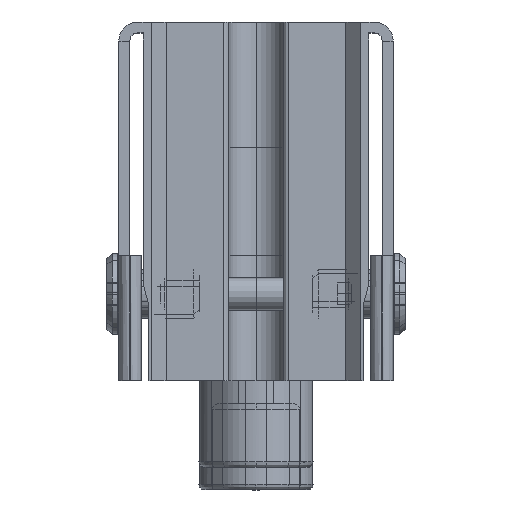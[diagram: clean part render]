
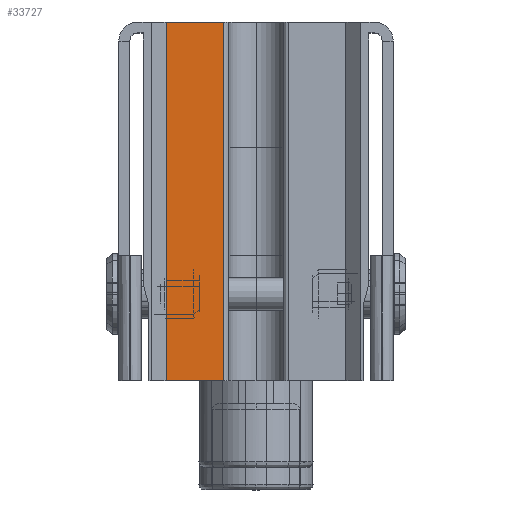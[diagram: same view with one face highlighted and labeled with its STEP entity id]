
A CAD part, top view. The second image highlights one B-rep face of the part: STEP entity #33727.
In plain terms, the highlighted planar face has unit normal (0, 0, 1).
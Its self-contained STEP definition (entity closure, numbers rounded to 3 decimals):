
#321 = VERTEX_POINT ( 'NONE', #4331 ) ;
#980 = LINE ( 'NONE', #1327, #11882 ) ;
#1327 = CARTESIAN_POINT ( 'NONE',  ( 8323.45, -5792., 369.446 ) ) ;
#4279 = DIRECTION ( 'NONE',  ( -1., 0., 0. ) ) ;
#4331 = CARTESIAN_POINT ( 'NONE',  ( 8323.45, -5792., 369.446 ) ) ;
#4633 = FACE_OUTER_BOUND ( 'NONE', #19289, .T. ) ;
#6721 = CARTESIAN_POINT ( 'NONE',  ( 8334., -5792., 369.446 ) ) ;
#7216 = EDGE_CURVE ( 'NONE', #14292, #21777, #21825, .T. ) ;
#8798 = VERTEX_POINT ( 'NONE', #21788 ) ;
#9529 = DIRECTION ( 'NONE',  ( 0., -1., 0. ) ) ;
#10055 = DIRECTION ( 'NONE',  ( 0., 0., 1. ) ) ;
#11101 = DIRECTION ( 'NONE',  ( -1., 0., 0. ) ) ;
#11249 = VECTOR ( 'NONE', #11101, 1000. ) ;
#11685 = DIRECTION ( 'NONE',  ( 0., -1., 0. ) ) ;
#11882 = VECTOR ( 'NONE', #11685, 1000. ) ;
#13053 = DIRECTION ( 'NONE',  ( 0., -1., 0. ) ) ;
#14292 = VERTEX_POINT ( 'NONE', #27161 ) ;
#14480 = EDGE_CURVE ( 'NONE', #321, #21777, #980, .T. ) ;
#18166 = LINE ( 'NONE', #6721, #27394 ) ;
#18337 = CARTESIAN_POINT ( 'NONE',  ( 8368.25, -5792., 369.446 ) ) ;
#19188 = CARTESIAN_POINT ( 'NONE',  ( 8368.25, -5858., 369.446 ) ) ;
#19289 = EDGE_LOOP ( 'NONE', ( #23451, #33801, #29442, #20404 ) ) ;
#20208 = VECTOR ( 'NONE', #4279, 1000. ) ;
#20404 = ORIENTED_EDGE ( 'NONE', *, *, #14480, .T. ) ;
#21777 = VERTEX_POINT ( 'NONE', #25904 ) ;
#21788 = CARTESIAN_POINT ( 'NONE',  ( 8334., -5792., 369.446 ) ) ;
#21825 = LINE ( 'NONE', #19188, #11249 ) ;
#22713 = LINE ( 'NONE', #27980, #20208 ) ;
#23451 = ORIENTED_EDGE ( 'NONE', *, *, #7216, .F. ) ;
#24876 = EDGE_CURVE ( 'NONE', #8798, #14292, #18166, .T. ) ;
#25904 = CARTESIAN_POINT ( 'NONE',  ( 8323.45, -5858., 369.446 ) ) ;
#27161 = CARTESIAN_POINT ( 'NONE',  ( 8334., -5858., 369.446 ) ) ;
#27394 = VECTOR ( 'NONE', #9529, 1000. ) ;
#27980 = CARTESIAN_POINT ( 'NONE',  ( 8368.25, -5792., 369.446 ) ) ;
#28507 = PLANE ( 'NONE',  #30264 ) ;
#29442 = ORIENTED_EDGE ( 'NONE', *, *, #33545, .T. ) ;
#30264 = AXIS2_PLACEMENT_3D ( 'NONE', #18337, #10055, #13053 ) ;
#33545 = EDGE_CURVE ( 'NONE', #8798, #321, #22713, .T. ) ;
#33727 = ADVANCED_FACE ( 'NONE', ( #4633 ), #28507, .T. ) ;
#33801 = ORIENTED_EDGE ( 'NONE', *, *, #24876, .F. ) ;
